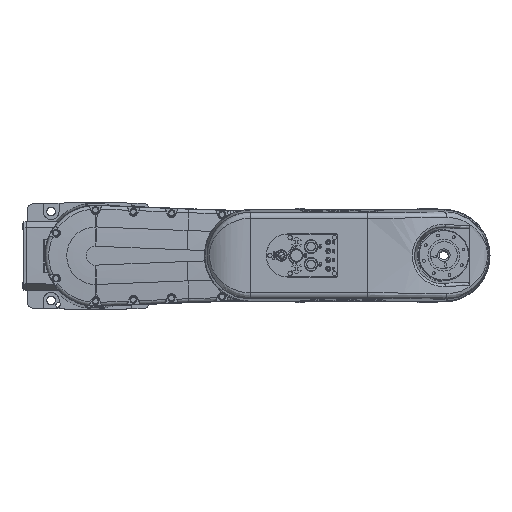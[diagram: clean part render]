
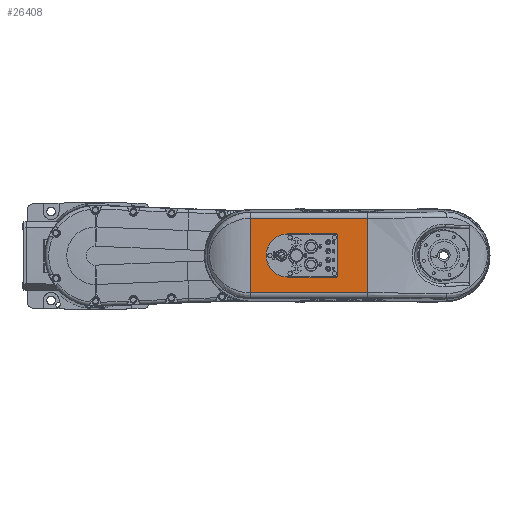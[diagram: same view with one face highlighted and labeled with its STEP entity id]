
A CAD part, top view. The second image highlights one B-rep face of the part: STEP entity #26408.
In plain terms, the highlighted planar face has unit normal (0, 0, 1).
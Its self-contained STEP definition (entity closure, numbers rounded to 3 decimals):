
#724 = CARTESIAN_POINT ( 'NONE',  ( 245., -705.242, 457.7 ) ) ;
#1587 = CARTESIAN_POINT ( 'NONE',  ( 382.5, 34., 457.7 ) ) ;
#2884 = CARTESIAN_POINT ( 'NONE',  ( 303.5, -34., 457.7 ) ) ;
#4637 = CARTESIAN_POINT ( 'NONE',  ( 382.5, 33.172, 457.7 ) ) ;
#6627 = ORIENTED_EDGE ( 'NONE', *, *, #42437, .F. ) ;
#6721 = EDGE_CURVE ( 'NONE', #99453, #69114, #104194, .T. ) ;
#8685 = DIRECTION ( 'NONE',  ( 0., -1., 0. ) ) ;
#10041 = DIRECTION ( 'NONE',  ( 1., 0., 0. ) ) ;
#13447 = CARTESIAN_POINT ( 'NONE',  ( 382.5, -34., 457.7 ) ) ;
#13825 = ORIENTED_EDGE ( 'NONE', *, *, #46406, .F. ) ;
#13919 = ORIENTED_EDGE ( 'NONE', *, *, #47734, .T. ) ;
#20772 = ORIENTED_EDGE ( 'NONE', *, *, #40922, .F. ) ;
#21196 = ORIENTED_EDGE ( 'NONE', *, *, #109350, .T. ) ;
#21232 = CARTESIAN_POINT ( 'NONE',  ( 381.672, 34., 457.7 ) ) ;
#21791 = CARTESIAN_POINT ( 'NONE',  ( 382.5, -33.172, 457.7 ) ) ;
#22422 = EDGE_LOOP ( 'NONE', ( #68329, #93330, #13825, #87810, #6627, #20772 ) ) ;
#22669 = CARTESIAN_POINT ( 'NONE',  ( 430., -59.156, 457.7 ) ) ;
#25192 = CARTESIAN_POINT ( 'NONE',  ( 382.5, 32.001, 457.7 ) ) ;
#26168 = VECTOR ( 'NONE', #53835, 1000. ) ;
#26356 =( BOUNDED_CURVE ( )  B_SPLINE_CURVE ( 3, ( #82471, #21232, #4637, #90754 ),
 .UNSPECIFIED., .F., .T. ) 
 B_SPLINE_CURVE_WITH_KNOTS ( ( 4, 4 ),
 ( 2.357, 3.927 ),
 .UNSPECIFIED. ) 
 CURVE ( )  GEOMETRIC_REPRESENTATION_ITEM ( )  RATIONAL_B_SPLINE_CURVE ( ( 1., 0.805, 0.805, 1. ) ) 
 REPRESENTATION_ITEM ( '' )  );
#26408 = ADVANCED_FACE ( 'NONE', ( #29850, #105214 ), #85348, .T. ) ;
#28991 = VECTOR ( 'NONE', #68133, 1000. ) ;
#29040 = VERTEX_POINT ( 'NONE', #94105 ) ;
#29077 = CARTESIAN_POINT ( 'NONE',  ( 245., 59.156, 457.7 ) ) ;
#29850 = FACE_OUTER_BOUND ( 'NONE', #60481, .T. ) ;
#30145 = VECTOR ( 'NONE', #60197, 1000. ) ;
#31314 = VERTEX_POINT ( 'NONE', #25192 ) ;
#33829 = DIRECTION ( 'NONE',  ( 0., 0., 1. ) ) ;
#35568 = VERTEX_POINT ( 'NONE', #2884 ) ;
#39218 = CARTESIAN_POINT ( 'NONE',  ( 380.501, -34., 457.7 ) ) ;
#40922 = EDGE_CURVE ( 'NONE', #108471, #35568, #92417, .T. ) ;
#40955 = CARTESIAN_POINT ( 'NONE',  ( 430., 59.156, 457.7 ) ) ;
#40996 = CARTESIAN_POINT ( 'NONE',  ( 382.5, 34., 457.7 ) ) ;
#42218 = DIRECTION ( 'NONE',  ( 0., 1., 0. ) ) ;
#42437 = EDGE_CURVE ( 'NONE', #35568, #90549, #101387, .T. ) ;
#46067 = VECTOR ( 'NONE', #106523, 1000. ) ;
#46341 = CARTESIAN_POINT ( 'NONE',  ( 245., 59.156, 457.7 ) ) ;
#46406 = EDGE_CURVE ( 'NONE', #29040, #31314, #100377, .T. ) ;
#46660 = LINE ( 'NONE', #87421, #101808 ) ;
#46734 = EDGE_CURVE ( 'NONE', #29040, #90549, #96631, .T. ) ;
#47734 = EDGE_CURVE ( 'NONE', #93646, #69114, #85110, .T. ) ;
#48723 = LINE ( 'NONE', #50120, #102539 ) ;
#50120 = CARTESIAN_POINT ( 'NONE',  ( 430., -705.455, 457.7 ) ) ;
#50140 = AXIS2_PLACEMENT_3D ( 'NONE', #110592, #33829, #8685 ) ;
#50534 = CARTESIAN_POINT ( 'NONE',  ( 303.5, 34., 457.7 ) ) ;
#50690 = EDGE_CURVE ( 'NONE', #89139, #31314, #26356, .T. ) ;
#53835 = DIRECTION ( 'NONE',  ( -1., 0., 0. ) ) ;
#54612 = EDGE_CURVE ( 'NONE', #56294, #93646, #48723, .T. ) ;
#56294 = VERTEX_POINT ( 'NONE', #22669 ) ;
#56351 = CARTESIAN_POINT ( 'NONE',  ( 380.501, -34., 457.7 ) ) ;
#60197 = DIRECTION ( 'NONE',  ( 0., 1., 0. ) ) ;
#60481 = EDGE_LOOP ( 'NONE', ( #107042, #13919, #67351, #21196 ) ) ;
#62543 = EDGE_CURVE ( 'NONE', #89139, #108471, #100208, .T. ) ;
#67351 = ORIENTED_EDGE ( 'NONE', *, *, #6721, .F. ) ;
#68133 = DIRECTION ( 'NONE',  ( 0., 1., 0. ) ) ;
#68329 = ORIENTED_EDGE ( 'NONE', *, *, #62543, .F. ) ;
#69114 = VERTEX_POINT ( 'NONE', #29077 ) ;
#72191 = CARTESIAN_POINT ( 'NONE',  ( 382.5, -32.001, 457.7 ) ) ;
#73941 = CARTESIAN_POINT ( 'NONE',  ( 303.5, 0., 457.7 ) ) ;
#81826 = DIRECTION ( 'NONE',  ( 0., 0., 1. ) ) ;
#82471 = CARTESIAN_POINT ( 'NONE',  ( 380.501, 34., 457.7 ) ) ;
#83965 = AXIS2_PLACEMENT_3D ( 'NONE', #73941, #81826, #98719 ) ;
#85110 = LINE ( 'NONE', #46341, #46067 ) ;
#85348 = PLANE ( 'NONE',  #50140 ) ;
#87421 = CARTESIAN_POINT ( 'NONE',  ( 430., -59.156, 457.7 ) ) ;
#87810 = ORIENTED_EDGE ( 'NONE', *, *, #46734, .T. ) ;
#89139 = VERTEX_POINT ( 'NONE', #100513 ) ;
#89930 = CARTESIAN_POINT ( 'NONE',  ( 245., -59.156, 457.7 ) ) ;
#90549 = VERTEX_POINT ( 'NONE', #39218 ) ;
#90555 = CARTESIAN_POINT ( 'NONE',  ( 381.672, -34., 457.7 ) ) ;
#90754 = CARTESIAN_POINT ( 'NONE',  ( 382.5, 32.001, 457.7 ) ) ;
#91993 = VECTOR ( 'NONE', #98373, 1000. ) ;
#92417 = CIRCLE ( 'NONE', #83965, 34. ) ;
#93330 = ORIENTED_EDGE ( 'NONE', *, *, #50690, .T. ) ;
#93646 = VERTEX_POINT ( 'NONE', #40955 ) ;
#94105 = CARTESIAN_POINT ( 'NONE',  ( 382.5, -32.001, 457.7 ) ) ;
#96631 =( BOUNDED_CURVE ( )  B_SPLINE_CURVE ( 3, ( #72191, #21791, #90555, #56351 ),
 .UNSPECIFIED., .F., .T. ) 
 B_SPLINE_CURVE_WITH_KNOTS ( ( 4, 4 ),
 ( 2.357, 3.927 ),
 .UNSPECIFIED. ) 
 CURVE ( )  GEOMETRIC_REPRESENTATION_ITEM ( )  RATIONAL_B_SPLINE_CURVE ( ( 1., 0.805, 0.805, 1. ) ) 
 REPRESENTATION_ITEM ( '' )  );
#98373 = DIRECTION ( 'NONE',  ( 1., 0., 0. ) ) ;
#98719 = DIRECTION ( 'NONE',  ( 0., 1., 0. ) ) ;
#99453 = VERTEX_POINT ( 'NONE', #89930 ) ;
#100208 = LINE ( 'NONE', #1587, #26168 ) ;
#100377 = LINE ( 'NONE', #40996, #28991 ) ;
#100513 = CARTESIAN_POINT ( 'NONE',  ( 380.501, 34., 457.7 ) ) ;
#101387 = LINE ( 'NONE', #13447, #91993 ) ;
#101808 = VECTOR ( 'NONE', #10041, 1000. ) ;
#102539 = VECTOR ( 'NONE', #42218, 1000. ) ;
#104194 = LINE ( 'NONE', #724, #30145 ) ;
#105214 = FACE_BOUND ( 'NONE', #22422, .T. ) ;
#106523 = DIRECTION ( 'NONE',  ( -1., 0., 0. ) ) ;
#107042 = ORIENTED_EDGE ( 'NONE', *, *, #54612, .T. ) ;
#108471 = VERTEX_POINT ( 'NONE', #50534 ) ;
#109350 = EDGE_CURVE ( 'NONE', #99453, #56294, #46660, .T. ) ;
#110592 = CARTESIAN_POINT ( 'NONE',  ( 245., 0., 457.7 ) ) ;
